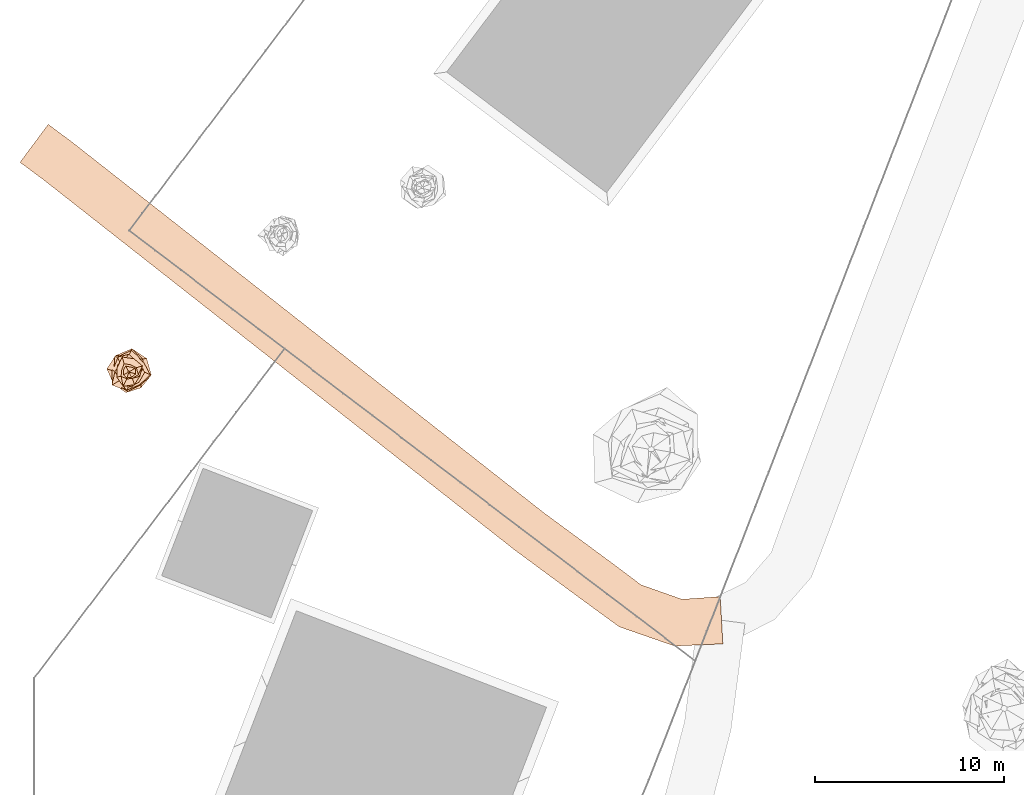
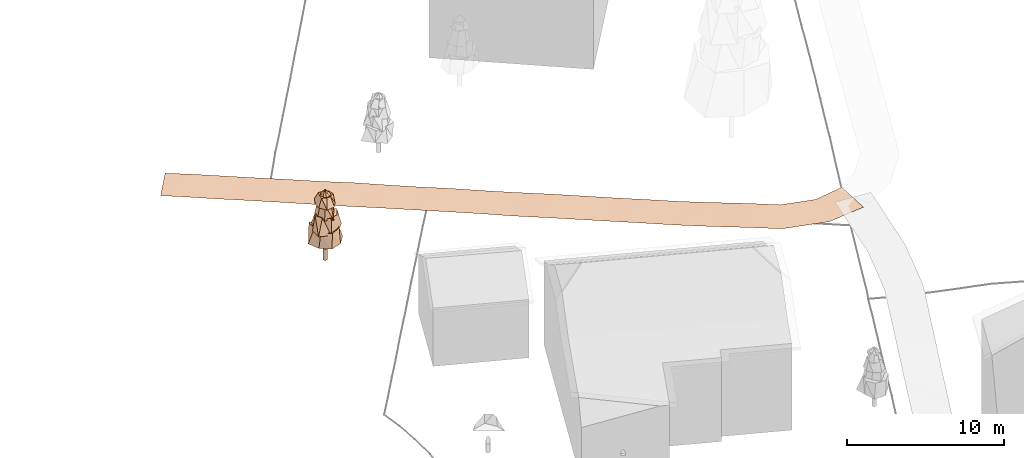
# Not in any storey, part 33 of 88: 2 geographic elements.
"""IFC4 model written with IfcOpenShell, lengths in metres."""

from ifc_helpers import new_model, si_unit, frame, origin_with_axes, place, context, subcontext, project, spatial, circle, extrude, faceted_brep, triangles, element, save


model = new_model("IFC4")

# Units and contexts
model_context = context("Model", 3, precision=1e-05, world=origin_with_axes())
body_context = subcontext(model_context, "Body", "Model", "MODEL_VIEW")
ifc_project = project(units=[si_unit("LENGTHUNIT", "METRE"), si_unit("AREAUNIT", "SQUARE_METRE"), si_unit("VOLUMEUNIT", "CUBIC_METRE"), si_unit("PLANEANGLEUNIT", "RADIAN")], contexts=[model_context])

# Sites
site_1_placement = place(None, origin_with_axes())
site_1 = spatial("IfcSite", under=ifc_project, at=site_1_placement, Name="CH907857693633", CompositionType="ELEMENT")
site_2_placement = place(None, origin_with_axes())
site_2 = spatial("IfcSite", under=site_1, at=site_2_placement, Name="Vegetation", CompositionType="ELEMENT")

# Geographic element
geographic_element_1_placement = place(None, frame((5.00000003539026, 115.500003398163, 3.8126220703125), z_axis=(0.0, 0.0, 1.0), x_axis=(1.0, 0.0, 0.0)))
element("IfcGeographicElement", 1, at=geographic_element_1_placement, inside=site_2, Name="Tree_einzelbaum", ObjectType="VEGETATION", PredefinedType="USERDEFINED", context=body_context, shape_type="Brep", body=[
    extrude(circle(Radius=0.15), origin_with_axes(), (0.0, 0.0, 1.0), 1.48171643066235),
    faceted_brep([(1.19295369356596, -0.167621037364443, 1.48171643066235), (0.637695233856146, -0.846195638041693, 1.48171643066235), (-0.153835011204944, -1.09483897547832, 1.48171643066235), (-0.813254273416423, -0.612870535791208, 1.48171643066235), (-1.15942676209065, 0.162910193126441, 1.48171643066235), (-0.663117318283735, 0.879929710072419, 1.48171643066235), (0.172848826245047, 1.23015970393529, 1.48171643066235), (0.947080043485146, 0.713721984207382, 1.48171643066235), (0.733197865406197, 0.677318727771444, 2.63600711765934), (0.0298688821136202, 0.753958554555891, 2.63600711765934), (-0.741603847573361, 0.802786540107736, 2.63600711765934), (-0.793437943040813, 0.0314329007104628, 2.63600711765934), (-0.710882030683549, -0.656703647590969, 2.63600711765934), (-0.0407308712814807, -1.02813987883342, 2.63600711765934), (0.633620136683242, -0.685894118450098, 2.63600711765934), (0.811977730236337, -0.0321673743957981, 2.63600711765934), (0.947080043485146, 0.713721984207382, 1.48171643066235), (0.172848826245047, 1.23015970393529, 1.48171643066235), (0.0298688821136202, 0.753958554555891, 2.63600711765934), (0.733197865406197, 0.677318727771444, 2.63600711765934), (0.172848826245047, 1.23015970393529, 1.48171643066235), (-0.663117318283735, 0.879929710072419, 1.48171643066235), (-0.741603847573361, 0.802786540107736, 2.63600711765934), (0.0298688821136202, 0.753958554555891, 2.63600711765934), (-0.663117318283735, 0.879929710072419, 1.48171643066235), (-1.15942676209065, 0.162910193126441, 1.48171643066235), (-0.793437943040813, 0.0314329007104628, 2.63600711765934), (-0.741603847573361, 0.802786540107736, 2.63600711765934), (-1.15942676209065, 0.162910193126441, 1.48171643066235), (-0.813254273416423, -0.612870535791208, 1.48171643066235), (-0.710882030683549, -0.656703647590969, 2.63600711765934), (-0.793437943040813, 0.0314329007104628, 2.63600711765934), (-0.813254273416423, -0.612870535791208, 1.48171643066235), (-0.153835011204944, -1.09483897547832, 1.48171643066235), (-0.0407308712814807, -1.02813987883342, 2.63600711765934), (-0.710882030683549, -0.656703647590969, 2.63600711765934), (-0.153835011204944, -1.09483897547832, 1.48171643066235), (0.637695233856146, -0.846195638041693, 1.48171643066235), (0.633620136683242, -0.685894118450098, 2.63600711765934), (-0.0407308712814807, -1.02813987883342, 2.63600711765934), (0.637695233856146, -0.846195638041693, 1.48171643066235), (1.19295369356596, -0.167621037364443, 1.48171643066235), (0.811977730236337, -0.0321673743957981, 2.63600711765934), (0.633620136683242, -0.685894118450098, 2.63600711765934), (1.19295369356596, -0.167621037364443, 1.48171643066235), (0.947080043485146, 0.713721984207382, 1.48171643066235), (0.733197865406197, 0.677318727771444, 2.63600711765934), (0.811977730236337, -0.0321673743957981, 2.63600711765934)], [[[0, 1, 2, 3, 4, 5, 6, 7]], [[8, 9, 10, 11, 12, 13, 14, 15]], [[16, 17, 18, 19]], [[20, 21, 22, 23]], [[24, 25, 26, 27]], [[28, 29, 30, 31]], [[32, 33, 34, 35]], [[36, 37, 38, 39]], [[40, 41, 42, 43]], [[44, 45, 46, 47]]]),
    faceted_brep([(1.12815127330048, -0.140277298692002, 2.46286351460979), (0.550901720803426, -0.707356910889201, 2.46286351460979), (-0.12300771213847, -0.989264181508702, 2.46286351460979), (-0.891717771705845, -0.694485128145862, 2.46286351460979), (-0.877301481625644, 0.109085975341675, 2.46286351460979), (-0.609359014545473, 0.782415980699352, 2.46286351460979), (0.142208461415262, 1.14368225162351, 2.46286351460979), (0.7488613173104, 0.583226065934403, 2.46286351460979), (0.467326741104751, 0.445677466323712, 3.62966099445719), (0.0221199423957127, 0.932853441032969, 3.62966099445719), (-0.436677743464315, 0.45788984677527, 3.62966099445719), (-0.731504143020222, 0.0173455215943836, 3.62966099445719), (-0.463751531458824, -0.442267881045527, 3.62966099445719), (-0.0193519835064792, -0.816121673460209, 3.62966099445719), (0.530853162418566, -0.556639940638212, 3.62966099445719), (0.841665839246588, -0.0199576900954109, 3.62966099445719), (0.7488613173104, 0.583226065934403, 2.46286351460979), (0.142208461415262, 1.14368225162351, 2.46286351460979), (0.0221199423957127, 0.932853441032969, 3.62966099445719), (0.467326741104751, 0.445677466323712, 3.62966099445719), (0.142208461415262, 1.14368225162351, 2.46286351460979), (-0.609359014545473, 0.782415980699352, 2.46286351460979), (-0.436677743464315, 0.45788984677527, 3.62966099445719), (0.0221199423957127, 0.932853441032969, 3.62966099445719), (-0.609359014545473, 0.782415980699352, 2.46286351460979), (-0.877301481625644, 0.109085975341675, 2.46286351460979), (-0.731504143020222, 0.0173455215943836, 3.62966099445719), (-0.436677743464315, 0.45788984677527, 3.62966099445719), (-0.877301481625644, 0.109085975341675, 2.46286351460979), (-0.891717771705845, -0.694485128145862, 2.46286351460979), (-0.463751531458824, -0.442267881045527, 3.62966099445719), (-0.731504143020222, 0.0173455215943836, 3.62966099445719), (-0.891717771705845, -0.694485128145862, 2.46286351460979), (-0.12300771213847, -0.989264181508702, 2.46286351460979), (-0.0193519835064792, -0.816121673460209, 3.62966099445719), (-0.463751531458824, -0.442267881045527, 3.62966099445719), (-0.12300771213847, -0.989264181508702, 2.46286351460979), (0.550901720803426, -0.707356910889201, 2.46286351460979), (0.530853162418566, -0.556639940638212, 3.62966099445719), (-0.0193519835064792, -0.816121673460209, 3.62966099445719), (0.550901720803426, -0.707356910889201, 2.46286351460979), (1.12815127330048, -0.140277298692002, 2.46286351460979), (0.841665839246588, -0.0199576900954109, 3.62966099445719), (0.530853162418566, -0.556639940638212, 3.62966099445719), (1.12815127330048, -0.140277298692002, 2.46286351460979), (0.7488613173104, 0.583226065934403, 2.46286351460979), (0.467326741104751, 0.445677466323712, 3.62966099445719), (0.841665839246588, -0.0199576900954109, 3.62966099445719)], [[[0, 1, 2, 3, 4, 5, 6, 7]], [[8, 9, 10, 11, 12, 13, 14, 15]], [[16, 17, 18, 19]], [[20, 21, 22, 23]], [[24, 25, 26, 27]], [[28, 29, 30, 31]], [[32, 33, 34, 35]], [[36, 37, 38, 39]], [[40, 41, 42, 43]], [[44, 45, 46, 47]]]),
    faceted_brep([(0.477664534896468, -0.317601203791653, 3.45464137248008), (0.162607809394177, -0.807907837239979, 3.45464137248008), (-0.400075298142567, -0.601703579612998, 3.45464137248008), (-0.646196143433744, -0.130060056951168, 3.45464137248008), (-0.581077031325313, 0.386360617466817, 3.45464137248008), (-0.14427978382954, 0.716846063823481, 3.45464137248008), (0.315857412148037, 0.47504191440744, 3.45464137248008), (0.784090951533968, 0.157814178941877, 3.45464137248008), (0.546705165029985, 0.168287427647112, 4.52370503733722), (0.219747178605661, 0.415196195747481, 4.52370503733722), (-0.136660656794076, 0.443961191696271, 4.52370503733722), (-0.438396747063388, 0.232026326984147, 4.52370503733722), (-0.435948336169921, -0.134194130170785, 4.52370503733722), (-0.279483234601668, -0.528063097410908, 4.52370503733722), (0.145287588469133, -0.47198698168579, 4.52370503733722), (0.391958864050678, -0.2074485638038, 4.52370503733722), (0.784090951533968, 0.157814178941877, 3.45464137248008), (0.315857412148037, 0.47504191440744, 3.45464137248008), (0.219747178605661, 0.415196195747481, 4.52370503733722), (0.546705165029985, 0.168287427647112, 4.52370503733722), (0.315857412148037, 0.47504191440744, 3.45464137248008), (-0.14427978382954, 0.716846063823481, 3.45464137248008), (-0.136660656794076, 0.443961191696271, 4.52370503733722), (0.219747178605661, 0.415196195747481, 4.52370503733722), (-0.14427978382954, 0.716846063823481, 3.45464137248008), (-0.581077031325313, 0.386360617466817, 3.45464137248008), (-0.438396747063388, 0.232026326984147, 4.52370503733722), (-0.136660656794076, 0.443961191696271, 4.52370503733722), (-0.581077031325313, 0.386360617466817, 3.45464137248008), (-0.646196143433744, -0.130060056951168, 3.45464137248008), (-0.435948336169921, -0.134194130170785, 4.52370503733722), (-0.438396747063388, 0.232026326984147, 4.52370503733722), (-0.646196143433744, -0.130060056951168, 3.45464137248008), (-0.400075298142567, -0.601703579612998, 3.45464137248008), (-0.279483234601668, -0.528063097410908, 4.52370503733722), (-0.435948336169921, -0.134194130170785, 4.52370503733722), (-0.400075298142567, -0.601703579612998, 3.45464137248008), (0.162607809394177, -0.807907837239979, 3.45464137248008), (0.145287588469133, -0.47198698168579, 4.52370503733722), (-0.279483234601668, -0.528063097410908, 4.52370503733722), (0.162607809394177, -0.807907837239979, 3.45464137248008), (0.477664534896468, -0.317601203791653, 3.45464137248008), (0.391958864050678, -0.2074485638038, 4.52370503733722), (0.145287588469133, -0.47198698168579, 4.52370503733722), (0.477664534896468, -0.317601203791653, 3.45464137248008), (0.784090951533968, 0.157814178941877, 3.45464137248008), (0.546705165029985, 0.168287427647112, 4.52370503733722), (0.391958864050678, -0.2074485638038, 4.52370503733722)], [[[0, 1, 2, 3, 4, 5, 6, 7]], [[8, 9, 10, 11, 12, 13, 14, 15]], [[16, 17, 18, 19]], [[20, 21, 22, 23]], [[24, 25, 26, 27]], [[28, 29, 30, 31]], [[32, 33, 34, 35]], [[36, 37, 38, 39]], [[40, 41, 42, 43]], [[44, 45, 46, 47]]]),
    faceted_brep([(0.582260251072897, -0.226989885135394, 4.36334548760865), (0.297480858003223, -0.677614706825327, 4.36334548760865), (-0.295442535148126, -0.757850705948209, 4.36334548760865), (-0.631254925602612, -0.277128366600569, 4.36334548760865), (-0.607968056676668, 0.237011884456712, 4.36334548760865), (-0.345430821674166, 0.786837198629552, 4.36334548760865), (0.271250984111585, 0.695796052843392, 4.36334548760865), (0.723373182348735, 0.317569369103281, 4.36334548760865), (0.396702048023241, 0.22381864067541, 5.01149206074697), (0.105344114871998, 0.378105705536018, 5.01149206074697), (-0.246342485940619, 0.436623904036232, 5.01149206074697), (-0.371609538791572, 0.103534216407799, 5.01149206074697), (-0.405352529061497, -0.228699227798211, 5.01149206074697), (-0.103828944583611, -0.372667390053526, 5.01149206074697), (0.193488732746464, -0.342944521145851, 5.01149206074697), (0.505981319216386, -0.140971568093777, 5.01149206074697), (0.723373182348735, 0.317569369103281, 4.36334548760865), (0.271250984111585, 0.695796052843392, 4.36334548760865), (0.105344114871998, 0.378105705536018, 5.01149206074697), (0.396702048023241, 0.22381864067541, 5.01149206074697), (0.271250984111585, 0.695796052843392, 4.36334548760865), (-0.345430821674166, 0.786837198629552, 4.36334548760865), (-0.246342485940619, 0.436623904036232, 5.01149206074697), (0.105344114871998, 0.378105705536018, 5.01149206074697), (-0.345430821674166, 0.786837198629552, 4.36334548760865), (-0.607968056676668, 0.237011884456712, 4.36334548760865), (-0.371609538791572, 0.103534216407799, 5.01149206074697), (-0.246342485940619, 0.436623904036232, 5.01149206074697), (-0.607968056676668, 0.237011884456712, 4.36334548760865), (-0.631254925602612, -0.277128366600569, 4.36334548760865), (-0.405352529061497, -0.228699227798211, 5.01149206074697), (-0.371609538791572, 0.103534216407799, 5.01149206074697), (-0.631254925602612, -0.277128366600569, 4.36334548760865), (-0.295442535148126, -0.757850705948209, 4.36334548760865), (-0.103828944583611, -0.372667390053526, 5.01149206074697), (-0.405352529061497, -0.228699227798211, 5.01149206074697), (-0.295442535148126, -0.757850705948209, 4.36334548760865), (0.297480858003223, -0.677614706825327, 4.36334548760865), (0.193488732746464, -0.342944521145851, 5.01149206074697), (-0.103828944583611, -0.372667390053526, 5.01149206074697), (0.297480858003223, -0.677614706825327, 4.36334548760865), (0.582260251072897, -0.226989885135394, 4.36334548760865), (0.505981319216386, -0.140971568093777, 5.01149206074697), (0.193488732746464, -0.342944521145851, 5.01149206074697), (0.582260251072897, -0.226989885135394, 4.36334548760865), (0.723373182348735, 0.317569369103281, 4.36334548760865), (0.396702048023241, 0.22381864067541, 5.01149206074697), (0.505981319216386, -0.140971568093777, 5.01149206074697)], [[[0, 1, 2, 3, 4, 5, 6, 7]], [[8, 9, 10, 11, 12, 13, 14, 15]], [[16, 17, 18, 19]], [[20, 21, 22, 23]], [[24, 25, 26, 27]], [[28, 29, 30, 31]], [[32, 33, 34, 35]], [[36, 37, 38, 39]], [[40, 41, 42, 43]], [[44, 45, 46, 47]]]),
    faceted_brep([(0.445422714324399, -0.137417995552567, 4.91427007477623), (0.183587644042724, -0.347404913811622, 4.91427007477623), (-0.11961539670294, -0.387717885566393, 4.91427007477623), (-0.329872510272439, -0.174322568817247, 4.91427007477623), (-0.354925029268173, 0.10949842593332, 4.91427007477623), (-0.199200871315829, 0.376949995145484, 4.91427007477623), (0.0986821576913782, 0.319865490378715, 4.91427007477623), (0.424769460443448, 0.224471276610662, 4.91427007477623), (0.0492941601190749, 0.0327311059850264, 5.38350182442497), (0.0081786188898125, 0.0405030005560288, 5.38350182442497), (-0.0304391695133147, 0.0458424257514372, 5.38350182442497), (-0.0440686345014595, 0.00889861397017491, 5.38350182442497), (-0.0489311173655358, -0.0324900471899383, 5.38350182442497), (-0.00979534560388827, -0.0485095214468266, 5.38350182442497), (0.0259363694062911, -0.0390610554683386, 5.38350182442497), (0.0449427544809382, -0.00907512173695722, 5.38350182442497), (0.424769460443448, 0.224471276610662, 4.91427007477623), (0.0986821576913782, 0.319865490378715, 4.91427007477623), (0.0081786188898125, 0.0405030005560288, 5.38350182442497), (0.0492941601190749, 0.0327311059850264, 5.38350182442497), (0.0986821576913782, 0.319865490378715, 4.91427007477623), (-0.199200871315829, 0.376949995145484, 4.91427007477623), (-0.0304391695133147, 0.0458424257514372, 5.38350182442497), (0.0081786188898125, 0.0405030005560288, 5.38350182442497), (-0.199200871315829, 0.376949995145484, 4.91427007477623), (-0.354925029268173, 0.10949842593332, 4.91427007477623), (-0.0440686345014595, 0.00889861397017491, 5.38350182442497), (-0.0304391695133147, 0.0458424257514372, 5.38350182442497), (-0.354925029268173, 0.10949842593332, 4.91427007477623), (-0.329872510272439, -0.174322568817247, 4.91427007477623), (-0.0489311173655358, -0.0324900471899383, 5.38350182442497), (-0.0440686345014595, 0.00889861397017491, 5.38350182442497), (-0.329872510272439, -0.174322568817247, 4.91427007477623), (-0.11961539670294, -0.387717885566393, 4.91427007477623), (-0.00979534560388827, -0.0485095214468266, 5.38350182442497), (-0.0489311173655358, -0.0324900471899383, 5.38350182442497), (-0.11961539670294, -0.387717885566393, 4.91427007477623), (0.183587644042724, -0.347404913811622, 4.91427007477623), (0.0259363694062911, -0.0390610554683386, 5.38350182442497), (-0.00979534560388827, -0.0485095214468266, 5.38350182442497), (0.183587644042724, -0.347404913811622, 4.91427007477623), (0.445422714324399, -0.137417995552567, 4.91427007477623), (0.0449427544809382, -0.00907512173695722, 5.38350182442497), (0.0259363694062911, -0.0390610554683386, 5.38350182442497), (0.445422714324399, -0.137417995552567, 4.91427007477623), (0.424769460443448, 0.224471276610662, 4.91427007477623), (0.0492941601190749, 0.0327311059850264, 5.38350182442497), (0.0449427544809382, -0.00907512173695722, 5.38350182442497)], [[[0, 1, 2, 3, 4, 5, 6, 7]], [[8, 9, 10, 11, 12, 13, 14, 15]], [[16, 17, 18, 19]], [[20, 21, 22, 23]], [[24, 25, 26, 27]], [[28, 29, 30, 31]], [[32, 33, 34, 35]], [[36, 37, 38, 39]], [[40, 41, 42, 43]], [[44, 45, 46, 47]]]),
])

# Site
site_3_placement = place(None, origin_with_axes())
site_3 = spatial("IfcSite", under=site_1, at=site_3_placement, Name="Roads", CompositionType="ELEMENT")

# Geographic element
geographic_element_2_placement = place(None, origin_with_axes())
element("IfcGeographicElement", 2, at=geographic_element_2_placement, inside=site_3, Name="Road_weg", ObjectType="ROAD", PredefinedType="USERDEFINED", context=body_context, shape_type="Tessellation", body=[
    triangles([(36.3798818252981, 101.134958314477, 5.5783813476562), (33.8292964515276, 101.02026030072, 5.4178588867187), (30.9162657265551, 102.030370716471, 5.2652709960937), (28.9636846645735, 103.450619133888, 5.1956909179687), (27.1856846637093, 104.762952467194, 5.09699707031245), (25.3929628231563, 106.086320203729, 5.03327636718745), (23.7182564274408, 107.40197214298, 4.9754760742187), (22.0587897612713, 108.705838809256, 4.90437011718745), (20.3993230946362, 110.009705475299, 4.84077148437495), (18.7398564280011, 111.313572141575, 4.7732055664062), (17.0803897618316, 112.617438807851, 4.6934936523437), (15.4209230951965, 113.921305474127, 4.66267089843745), (13.7614564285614, 115.225172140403, 4.6032836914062), (12.1019897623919, 116.529038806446, 4.53681640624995), (10.4425230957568, 117.832905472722, 4.47236328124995), (8.78305642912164, 119.136772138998, 4.3889282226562), (7.12358976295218, 120.440638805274, 4.32270507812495), (5.46412309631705, 121.74450547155, 4.2743041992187), (3.80465642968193, 123.048372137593, 4.21198730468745), (2.14518976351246, 124.352238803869, 4.1295288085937), (0.497106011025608, 125.647267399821, 4.07587890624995), (-0.745405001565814, 126.570087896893, 4.05073242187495), (36.2401182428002, 103.631048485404, 5.67145996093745), (34.2187036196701, 103.48974649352, 5.5090454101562), (32.0517343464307, 104.25763608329, 5.3866088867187), (30.4483154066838, 105.462054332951, 5.3241088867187), (28.6703154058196, 106.774387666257, 5.2165649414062), (26.907037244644, 108.0756865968, 5.1320922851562), (25.2628103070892, 109.367767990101, 5.0684936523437), (23.6033436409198, 110.671634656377, 4.98994140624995), (21.9438769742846, 111.97550132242, 4.93464355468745), (20.2844103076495, 113.279367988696, 4.8748901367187), (18.6249436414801, 114.583234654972, 4.78291015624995), (16.9654769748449, 115.887101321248, 4.71357421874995), (15.3060103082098, 117.190967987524, 4.6771362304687), (13.6465436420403, 118.494834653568, 4.5880249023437), (11.9870769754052, 119.798701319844, 4.5391967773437), (10.3276103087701, 121.10256798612, 4.49909667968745), (8.66814364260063, 122.406434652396, 4.39484863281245), (7.0086769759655, 123.710301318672, 4.3321655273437), (5.34921030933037, 125.014167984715, 4.2529418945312), (3.68974364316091, 126.318034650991, 4.1875122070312), (2.01889406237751, 127.63073938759, 4.11933593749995), (0.745405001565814, 128.576947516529, 4.0600708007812)], [[1, 23, 2], [23, 24, 2], [2, 24, 3], [24, 25, 3], [3, 25, 4], [25, 26, 4], [4, 26, 5], [26, 27, 5], [5, 27, 6], [27, 28, 6], [6, 28, 7], [28, 29, 7], [7, 29, 8], [29, 30, 8], [8, 30, 9], [30, 31, 9], [9, 31, 10], [31, 32, 10], [10, 32, 11], [32, 33, 11], [11, 33, 12], [33, 34, 12], [12, 34, 13], [34, 35, 13], [13, 35, 14], [35, 36, 14], [14, 36, 15], [36, 37, 15], [15, 37, 16], [37, 38, 16], [16, 38, 17], [38, 39, 17], [17, 39, 18], [39, 40, 18], [18, 40, 19], [40, 41, 19], [19, 41, 20], [41, 42, 20], [20, 42, 21], [42, 43, 21], [21, 43, 22], [43, 44, 22]]),
])

save(model, "model.ifc")
